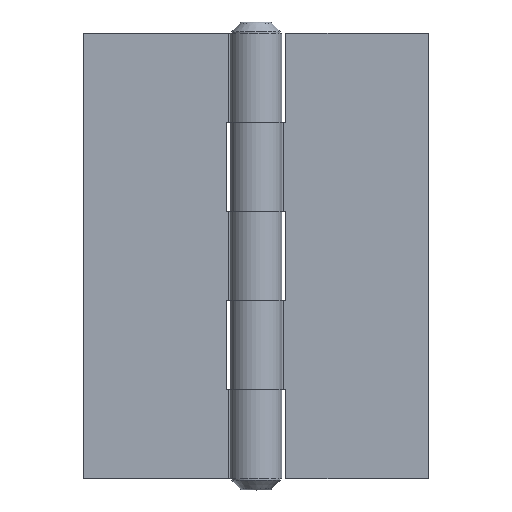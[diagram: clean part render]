
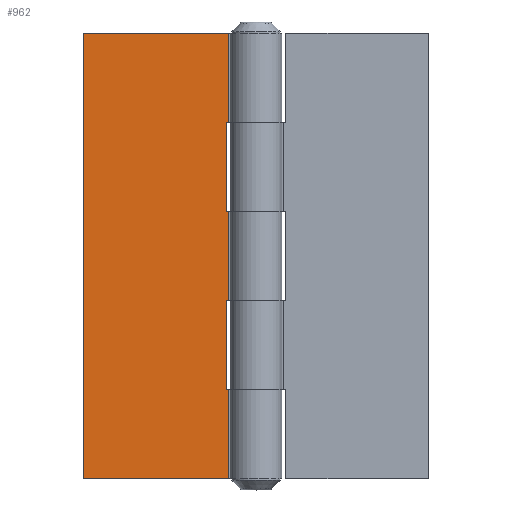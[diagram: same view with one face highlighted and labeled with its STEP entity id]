
A CAD part, top view. The second image highlights one B-rep face of the part: STEP entity #962.
In plain terms, the highlighted planar face has unit normal (0, 0, 1) as drawn and (0, 1, 0) by its records, which use the part's own axes.
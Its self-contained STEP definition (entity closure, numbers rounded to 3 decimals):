
#143=FACE_OUTER_BOUND('',#202,.T.);
#202=EDGE_LOOP('',(#782,#783,#784,#785,#786,#787,#788,#789,#790,#791,#792,
#793));
#282=LINE('',#1541,#366);
#286=LINE('',#1549,#370);
#288=LINE('',#1561,#372);
#290=LINE('',#1574,#374);
#294=LINE('',#1582,#378);
#296=LINE('',#1594,#380);
#298=LINE('',#1606,#382);
#299=LINE('',#1608,#383);
#300=LINE('',#1610,#384);
#301=LINE('',#1612,#385);
#302=LINE('',#1613,#386);
#303=LINE('',#1614,#387);
#366=VECTOR('',#1232,12.);
#370=VECTOR('',#1238,0.312);
#372=VECTOR('',#1250,0.312);
#374=VECTOR('',#1262,12.);
#378=VECTOR('',#1268,0.312);
#380=VECTOR('',#1280,0.312);
#382=VECTOR('',#1292,12.);
#383=VECTOR('',#1293,19.562);
#384=VECTOR('',#1294,60.);
#385=VECTOR('',#1295,19.562);
#386=VECTOR('',#1296,12.);
#387=VECTOR('',#1297,12.);
#446=VERTEX_POINT('',#1539);
#447=VERTEX_POINT('',#1540);
#450=VERTEX_POINT('',#1548);
#455=VERTEX_POINT('',#1560);
#460=VERTEX_POINT('',#1572);
#461=VERTEX_POINT('',#1573);
#464=VERTEX_POINT('',#1581);
#469=VERTEX_POINT('',#1593);
#474=VERTEX_POINT('',#1605);
#475=VERTEX_POINT('',#1607);
#476=VERTEX_POINT('',#1609);
#477=VERTEX_POINT('',#1611);
#556=EDGE_CURVE('',#446,#447,#282,.T.);
#560=EDGE_CURVE('',#447,#450,#286,.T.);
#566=EDGE_CURVE('',#455,#446,#288,.T.);
#572=EDGE_CURVE('',#460,#461,#290,.T.);
#576=EDGE_CURVE('',#461,#464,#294,.T.);
#582=EDGE_CURVE('',#469,#460,#296,.T.);
#588=EDGE_CURVE('',#474,#450,#298,.T.);
#589=EDGE_CURVE('',#475,#474,#299,.T.);
#590=EDGE_CURVE('',#475,#476,#300,.T.);
#591=EDGE_CURVE('',#477,#476,#301,.T.);
#592=EDGE_CURVE('',#469,#477,#302,.T.);
#593=EDGE_CURVE('',#455,#464,#303,.T.);
#782=ORIENTED_EDGE('',*,*,#566,.T.);
#783=ORIENTED_EDGE('',*,*,#556,.T.);
#784=ORIENTED_EDGE('',*,*,#560,.T.);
#785=ORIENTED_EDGE('',*,*,#588,.F.);
#786=ORIENTED_EDGE('',*,*,#589,.F.);
#787=ORIENTED_EDGE('',*,*,#590,.T.);
#788=ORIENTED_EDGE('',*,*,#591,.F.);
#789=ORIENTED_EDGE('',*,*,#592,.F.);
#790=ORIENTED_EDGE('',*,*,#582,.T.);
#791=ORIENTED_EDGE('',*,*,#572,.T.);
#792=ORIENTED_EDGE('',*,*,#576,.T.);
#793=ORIENTED_EDGE('',*,*,#593,.F.);
#922=PLANE('',#1058);
#962=ADVANCED_FACE('',(#143),#922,.T.);
#1058=AXIS2_PLACEMENT_3D('',#1604,#1290,#1291);
#1232=DIRECTION('',(0.,0.,-1.));
#1238=DIRECTION('',(1.,0.,0.));
#1250=DIRECTION('',(-1.,0.,0.));
#1262=DIRECTION('',(0.,0.,-1.));
#1268=DIRECTION('',(1.,0.,0.));
#1280=DIRECTION('',(-1.,0.,0.));
#1290=DIRECTION('center_axis',(0.,1.,0.));
#1291=DIRECTION('ref_axis',(-1.,0.,0.));
#1292=DIRECTION('',(0.,0.,1.));
#1293=DIRECTION('',(1.,0.,0.));
#1294=DIRECTION('',(0.,0.,1.));
#1295=DIRECTION('',(-1.,0.,0.));
#1296=DIRECTION('',(0.,0.,1.));
#1297=DIRECTION('',(0.,0.,1.));
#1539=CARTESIAN_POINT('',(-4.,-1.3,-6.));
#1540=CARTESIAN_POINT('',(-4.,-1.3,-18.));
#1541=CARTESIAN_POINT('',(-4.,-1.3,-3.));
#1548=CARTESIAN_POINT('',(-3.688,-1.3,-18.));
#1549=CARTESIAN_POINT('',(-3.625,-1.3,-18.));
#1560=CARTESIAN_POINT('',(-3.688,-1.3,-6.));
#1561=CARTESIAN_POINT('',(0.125,-1.3,-6.));
#1572=CARTESIAN_POINT('',(-4.,-1.3,18.));
#1573=CARTESIAN_POINT('',(-4.,-1.3,6.));
#1574=CARTESIAN_POINT('',(-4.,-1.3,9.));
#1581=CARTESIAN_POINT('',(-3.688,-1.3,6.));
#1582=CARTESIAN_POINT('',(-3.625,-1.3,6.));
#1593=CARTESIAN_POINT('',(-3.688,-1.3,18.));
#1594=CARTESIAN_POINT('',(0.125,-1.3,18.));
#1604=CARTESIAN_POINT('Origin',(-3.25,-1.3,0.));
#1605=CARTESIAN_POINT('',(-3.688,-1.3,-30.));
#1606=CARTESIAN_POINT('',(-3.688,-1.3,0.));
#1607=CARTESIAN_POINT('',(-23.25,-1.3,-30.));
#1608=CARTESIAN_POINT('',(-23.25,-1.3,-30.));
#1609=CARTESIAN_POINT('',(-23.25,-1.3,30.));
#1610=CARTESIAN_POINT('',(-23.25,-1.3,0.));
#1611=CARTESIAN_POINT('',(-3.688,-1.3,30.));
#1612=CARTESIAN_POINT('',(-3.25,-1.3,30.));
#1613=CARTESIAN_POINT('',(-3.688,-1.3,0.));
#1614=CARTESIAN_POINT('',(-3.688,-1.3,0.));
